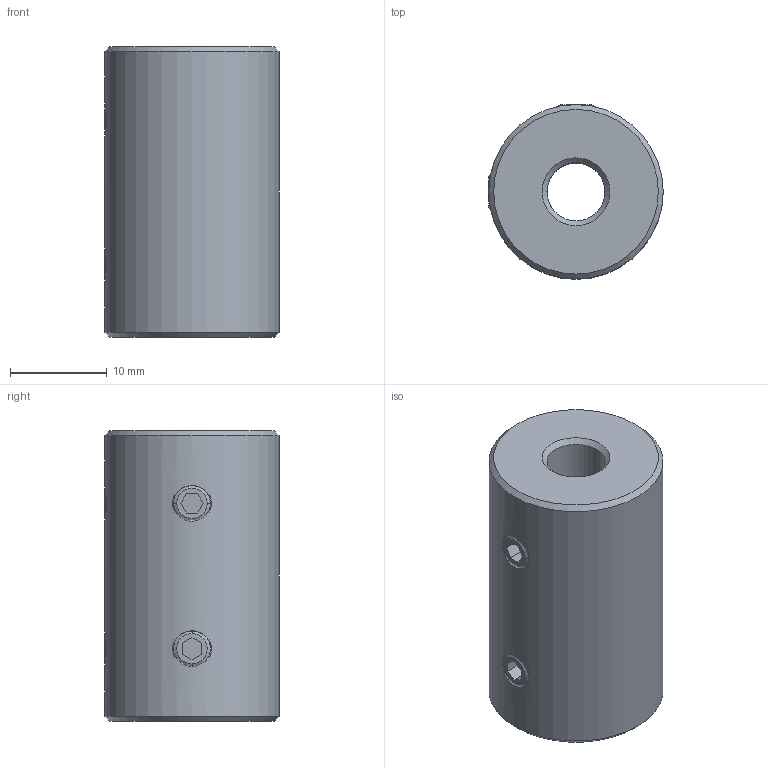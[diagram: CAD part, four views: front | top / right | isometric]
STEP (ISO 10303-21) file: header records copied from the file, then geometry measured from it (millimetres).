
FILE_DESCRIPTION (( 'STEP AP214' ), '1' );
FILE_NAME ('KBST1-VA-6.STEP', '2025-07-29T06:52:17', ( '' ), ( '' ), 'SwSTEP 2.0', 'SolidWorks 2024', '' );
FILE_SCHEMA (( 'AUTOMOTIVE_DESIGN' ));
Length unit declared in the file: millimetre
Products named in the file (1): KBST1-VA-6
Bounding box: 18 x 18 x 30 mm (x, y, z)
Volume: 6726.6 mm3; surface area: 3213.3 mm2
Topology: 5 solids, 5 shells, 80 faces, 178 edges, 104 vertices
Faces by surface type: plane 34, cone 28, cylinder 14, bspline 4
Full cylindrical faces by diameter (mm): 3.3 x4, 6 x1, 18 x1
Entity records: 7091 total; most frequent: CARTESIAN_POINT 4469, DIRECTION 338, ORIENTED_EDGE 312, EDGE_CURVE 156, AXIS2_PLACEMENT_3D 117, EDGE_LOOP 108, LINE 104, VECTOR 104
